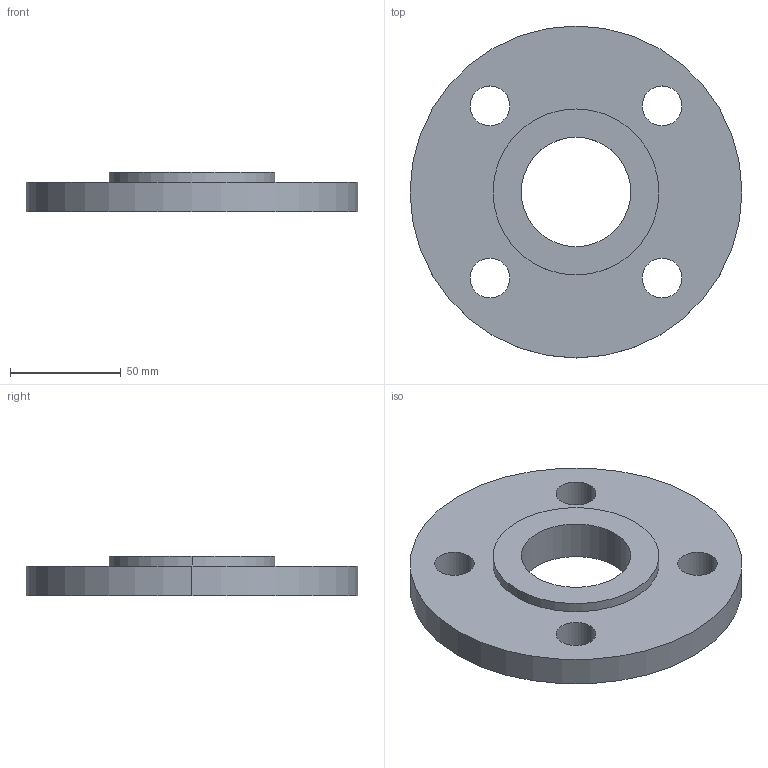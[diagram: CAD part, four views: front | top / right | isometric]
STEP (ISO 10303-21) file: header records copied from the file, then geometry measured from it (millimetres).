
FILE_DESCRIPTION (( 'STEP AP214' ), '1' );
FILE_NAME ('PN40 DN40 Type 01 - Type E Face.STEP', '2018-12-30T02:32:52', ( '' ), ( '' ), 'SwSTEP 2.0', 'SolidWorks 2019', '' );
FILE_SCHEMA (( 'AUTOMOTIVE_DESIGN' ));
Length unit declared in the file: millimetre
Products named in the file (1): PN40 DN40 Type 01 - Type E Face
Bounding box: 150 x 150 x 18 mm (x, y, z)
Volume: 210064.2 mm3; surface area: 42733.1 mm2
Topology: 1 solids, 1 shells, 17 faces, 42 edges, 28 vertices
Faces by surface type: cylinder 14, plane 3
Entity records: 578 total; most frequent: DIRECTION 106, CARTESIAN_POINT 88, ORIENTED_EDGE 84, AXIS2_PLACEMENT_3D 46, EDGE_CURVE 42, CIRCLE 28, VERTEX_POINT 28, EDGE_LOOP 28
